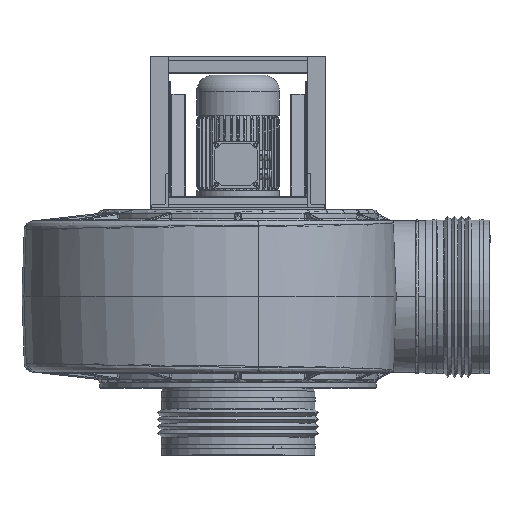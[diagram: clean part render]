
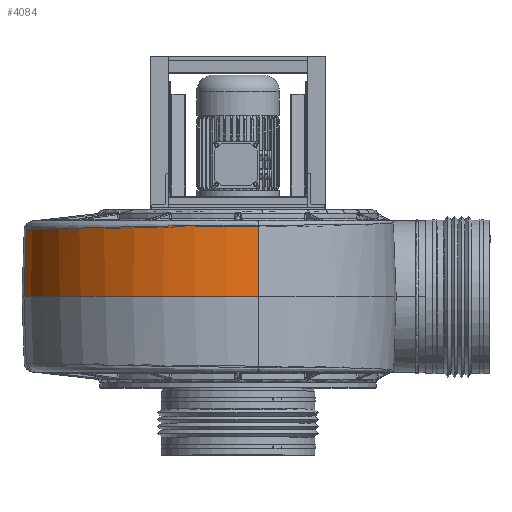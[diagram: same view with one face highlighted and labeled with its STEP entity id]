
A CAD part, top view. The second image highlights one B-rep face of the part: STEP entity #4084.
In plain terms, the highlighted face is a revolution surface.
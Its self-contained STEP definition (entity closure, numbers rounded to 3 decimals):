
#4084 = ADVANCED_FACE( '', ( #9889 ), #9890, .T. );
#9889 = FACE_OUTER_BOUND( '', #20781, .T. );
#9890 = SURFACE_OF_REVOLUTION( '', #20782, #20783 );
#20781 = EDGE_LOOP( '', ( #79077, #79078, #79079, #79080 ) );
#20782 = B_SPLINE_CURVE_WITH_KNOTS( '', 1, ( #79081, #79082 ), .UNSPECIFIED., .F., .F., ( 2, 2 ), ( 0., 1. ), .UNSPECIFIED. );
#20783 = AXIS1_PLACEMENT( '', #79083, #79084 );
#79077 = ORIENTED_EDGE( '', *, *, #109386, .T. );
#79078 = ORIENTED_EDGE( '', *, *, #109387, .F. );
#79079 = ORIENTED_EDGE( '', *, *, #109388, .F. );
#79080 = ORIENTED_EDGE( '', *, *, #109389, .T. );
#79081 = CARTESIAN_POINT( '', ( 0., -349.713, -311.098 ) );
#79082 = CARTESIAN_POINT( '', ( -177.5, -344.957, -307.124 ) );
#79083 = CARTESIAN_POINT( '', ( -88.75, 27.17, -43.689 ) );
#79084 = DIRECTION( '', ( -1., 0., 0. ) );
#109386 = EDGE_CURVE( '', #117358, #117359, #117360, .T. );
#109387 = EDGE_CURVE( '', #117361, #117359, #117362, .F. );
#109388 = EDGE_CURVE( '', #117363, #117361, #117364, .T. );
#109389 = EDGE_CURVE( '', #117363, #117358, #117365, .T. );
#117358 = VERTEX_POINT( '', #129490 );
#117359 = VERTEX_POINT( '', #129491 );
#117360 = B_SPLINE_CURVE_WITH_KNOTS( '', 1, ( #129492, #129493 ), .UNSPECIFIED., .F., .F., ( 2, 2 ), ( 0., 0.937 ), .UNSPECIFIED. );
#117361 = VERTEX_POINT( '', #129494 );
#117362 = B_SPLINE_CURVE_WITH_KNOTS( '', 3, ( #129495, #129496, #129497, #129498, #129499, #129500, #129501, #129502, #129503, #129504, #129505, #129506, #129507, #129508, #129509, #129510, #129511, #129512, #129513, #129514, #129515, #129516, #129517, #129518, #129519, #129520, #129521, #129522, #129523, #129524, #129525, #129526, #129527, #129528 ), .UNSPECIFIED., .F., .F., ( 4, 2, 2, 2, 2, 2, 2, 2, 2, 2, 2, 2, 2, 2, 2, 2, 4 ), ( 0., 0.063, 0.125, 0.188, 0.25, 0.313, 0.375, 0.438, 0.5, 0.563, 0.625, 0.688, 0.75, 0.813, 0.875, 0.938, 1. ), .UNSPECIFIED. );
#117363 = VERTEX_POINT( '', #129529 );
#117364 = B_SPLINE_CURVE_WITH_KNOTS( '', 1, ( #129530, #129531 ), .UNSPECIFIED., .F., .F., ( 2, 2 ), ( 0., 0.88 ), .UNSPECIFIED. );
#117365 = CIRCLE( '', #129532, 462.113 );
#129490 = CARTESIAN_POINT( '', ( 0., -425.729, 48.135 ) );
#129491 = CARTESIAN_POINT( '', ( -166.362, -419.962, 47.433 ) );
#129492 = CARTESIAN_POINT( '', ( 0., -425.729, 48.135 ) );
#129493 = CARTESIAN_POINT( '', ( -166.362, -419.962, 47.433 ) );
#129494 = CARTESIAN_POINT( '', ( -156.273, -35.435, -496.051 ) );
#129495 = CARTESIAN_POINT( '', ( -166.362, -419.962, 47.433 ) );
#129496 = CARTESIAN_POINT( '', ( -166.362, -423.064, 32.209 ) );
#129497 = CARTESIAN_POINT( '', ( -166.322, -425.39, 16.827 ) );
#129498 = CARTESIAN_POINT( '', ( -166.175, -428.463, -14.095 ) );
#129499 = CARTESIAN_POINT( '', ( -166.066, -429.211, -29.634 ) );
#129500 = CARTESIAN_POINT( '', ( -165.79, -429.119, -60.709 ) );
#129501 = CARTESIAN_POINT( '', ( -165.623, -428.28, -76.245 ) );
#129502 = CARTESIAN_POINT( '', ( -165.239, -425.025, -107.15 ) );
#129503 = CARTESIAN_POINT( '', ( -165.022, -422.608, -122.519 ) );
#129504 = CARTESIAN_POINT( '', ( -164.549, -416.22, -152.934 ) );
#129505 = CARTESIAN_POINT( '', ( -164.293, -412.25, -167.978 ) );
#129506 = CARTESIAN_POINT( '', ( -163.751, -402.796, -197.585 ) );
#129507 = CARTESIAN_POINT( '', ( -163.465, -397.313, -212.147 ) );
#129508 = CARTESIAN_POINT( '', ( -162.874, -384.89, -240.638 ) );
#129509 = CARTESIAN_POINT( '', ( -162.569, -377.951, -254.567 ) );
#129510 = CARTESIAN_POINT( '', ( -161.948, -362.688, -281.645 ) );
#129511 = CARTESIAN_POINT( '', ( -161.633, -354.364, -294.795 ) );
#129512 = CARTESIAN_POINT( '', ( -161.002, -336.418, -320.177 ) );
#129513 = CARTESIAN_POINT( '', ( -160.687, -326.796, -332.411 ) );
#129514 = CARTESIAN_POINT( '', ( -160.066, -306.354, -355.833 ) );
#129515 = CARTESIAN_POINT( '', ( -159.761, -295.534, -367.022 ) );
#129516 = CARTESIAN_POINT( '', ( -159.17, -272.808, -388.238 ) );
#129517 = CARTESIAN_POINT( '', ( -158.884, -260.902, -398.265 ) );
#129518 = CARTESIAN_POINT( '', ( -158.342, -236.128, -417.053 ) );
#129519 = CARTESIAN_POINT( '', ( -158.086, -223.26, -425.814 ) );
#129520 = CARTESIAN_POINT( '', ( -157.613, -196.697, -441.977 ) );
#129521 = CARTESIAN_POINT( '', ( -157.396, -183.002, -449.38 ) );
#129522 = CARTESIAN_POINT( '', ( -157.012, -154.926, -462.748 ) );
#129523 = CARTESIAN_POINT( '', ( -156.844, -140.546, -468.714 ) );
#129524 = CARTESIAN_POINT( '', ( -156.569, -111.252, -479.146 ) );
#129525 = CARTESIAN_POINT( '', ( -156.46, -96.337, -483.613 ) );
#129526 = CARTESIAN_POINT( '', ( -156.312, -66.13, -491. ) );
#129527 = CARTESIAN_POINT( '', ( -156.273, -50.837, -493.92 ) );
#129528 = CARTESIAN_POINT( '', ( -156.273, -35.435, -496.051 ) );
#129529 = CARTESIAN_POINT( '', ( 0., -35.765, -501.497 ) );
#129530 = CARTESIAN_POINT( '', ( 0., -35.748, -501.5 ) );
#129531 = CARTESIAN_POINT( '', ( -156.273, -35.435, -496.051 ) );
#129532 = AXIS2_PLACEMENT_3D( '', #159279, #159280, #159281 );
#159279 = CARTESIAN_POINT( '', ( 0., 27.17, -43.689 ) );
#159280 = DIRECTION( '', ( -1., 0., 0. ) );
#159281 = DIRECTION( '', ( 0., 0., 1. ) );
